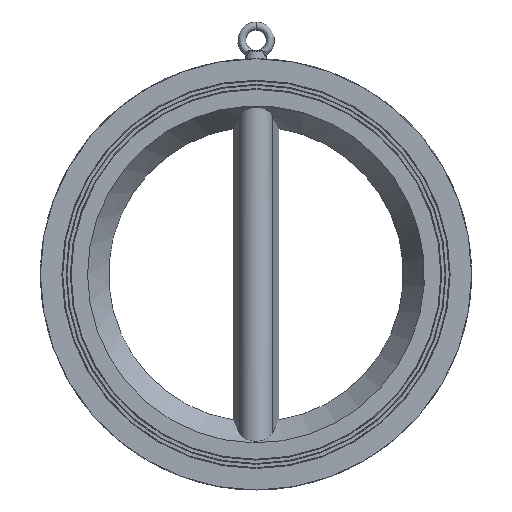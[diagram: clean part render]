
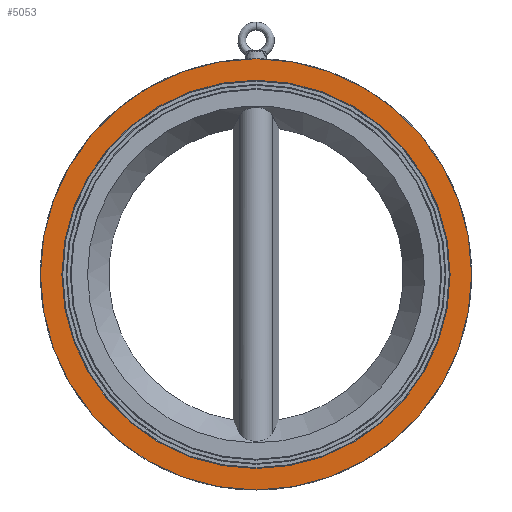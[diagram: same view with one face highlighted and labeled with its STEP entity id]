
A CAD part, front view. The second image highlights one B-rep face of the part: STEP entity #5053.
In plain terms, the highlighted planar face has unit normal (0, -1, 0).
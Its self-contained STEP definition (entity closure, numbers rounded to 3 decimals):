
#378 = ORIENTED_EDGE ( 'NONE', *, *, #1828, .F. ) ;
#382 = CARTESIAN_POINT ( 'NONE',  ( 3264.018, 1350.479, 0. ) ) ;
#412 = AXIS2_PLACEMENT_3D ( 'NONE', #1539, #2805, #4539 ) ;
#813 = DIRECTION ( 'NONE',  ( -1., 0., 0. ) ) ;
#1107 = AXIS2_PLACEMENT_3D ( 'NONE', #382, #2101, #813 ) ;
#1539 = CARTESIAN_POINT ( 'NONE',  ( 3264.018, 1350.479, 0. ) ) ;
#1668 = FACE_BOUND ( 'NONE', #3237, .T. ) ;
#1679 = DIRECTION ( 'NONE',  ( 1., 0., 0. ) ) ;
#1776 = EDGE_LOOP ( 'NONE', ( #378 ) ) ;
#1798 = FACE_OUTER_BOUND ( 'NONE', #1776, .T. ) ;
#1828 = EDGE_CURVE ( 'NONE', #5244, #5244, #4734, .T. ) ;
#2101 = DIRECTION ( 'NONE',  ( 0., 1., 0. ) ) ;
#2451 = AXIS2_PLACEMENT_3D ( 'NONE', #3718, #2509, #1679 ) ;
#2509 = DIRECTION ( 'NONE',  ( 0., -1., 0. ) ) ;
#2805 = DIRECTION ( 'NONE',  ( 0., 1., 0. ) ) ;
#3237 = EDGE_LOOP ( 'NONE', ( #4309 ) ) ;
#3466 = CARTESIAN_POINT ( 'NONE',  ( 3033.518, 1350.479, 0. ) ) ;
#3620 = EDGE_CURVE ( 'NONE', #4990, #4990, #4665, .T. ) ;
#3718 = CARTESIAN_POINT ( 'NONE',  ( 0., 1350.479, 0. ) ) ;
#3755 = PLANE ( 'NONE',  #2451 ) ;
#4309 = ORIENTED_EDGE ( 'NONE', *, *, #3620, .T. ) ;
#4539 = DIRECTION ( 'NONE',  ( -1., 0., 0. ) ) ;
#4665 = CIRCLE ( 'NONE', #1107, 230.5 ) ;
#4669 = CARTESIAN_POINT ( 'NONE',  ( 3008.018, 1350.479, 0. ) ) ;
#4734 = CIRCLE ( 'NONE', #412, 256. ) ;
#4990 = VERTEX_POINT ( 'NONE', #3466 ) ;
#5053 = ADVANCED_FACE ( 'NONE', ( #1668, #1798 ), #3755, .T. ) ;
#5244 = VERTEX_POINT ( 'NONE', #4669 ) ;
